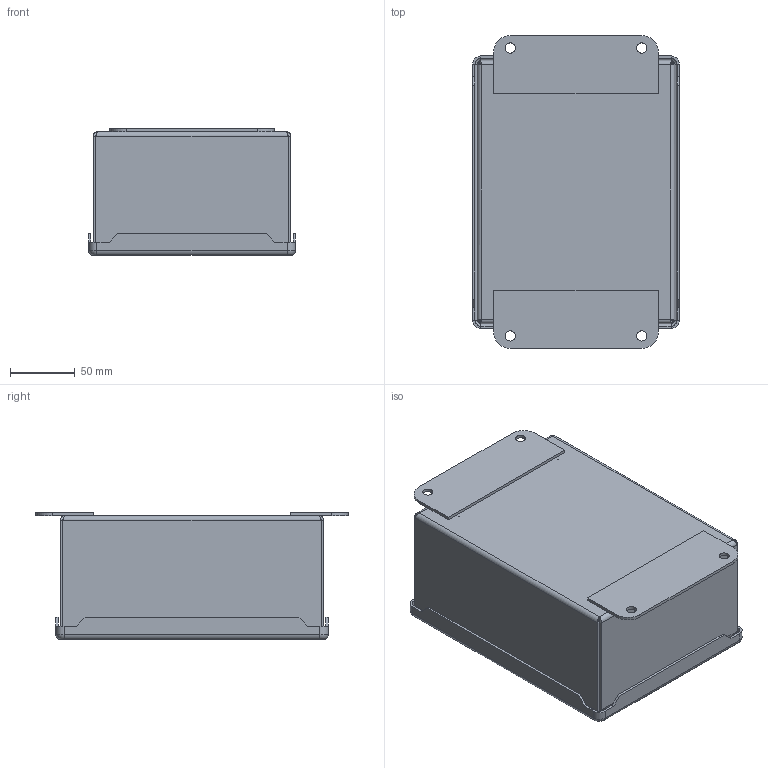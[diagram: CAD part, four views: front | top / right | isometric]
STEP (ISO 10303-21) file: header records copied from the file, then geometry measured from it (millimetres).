
FILE_DESCRIPTION (( 'STEP AP203' ), '1' );
FILE_NAME ('a806sc.STEP', '2011-02-17T15:11:01', ( 'Hoffman User' ), ( 'Hoffman Enclosures' ), 'SwSTEP 2.0', 'SolidWorks 2009', '' );
FILE_SCHEMA (( 'CONFIG_CONTROL_DESIGN' ));
Length unit declared in the file: inch
Products named in the file (9): 54106001; 89061412; 58346030; a806sc; 89061804; 54320006; 54208002_54208002; 58110009; 99404181
Assembly tree (15 placements, depth 3):
  a806sc
    89061412
      99404181
      58346030
    89061804
      54106001  x4
      54208002_54208002  x2
      58110009  x4
      54320006
Bounding box: 159.61 x 241.3 x 97.92 mm (x, y, z)
Volume: 282762.1 mm3; surface area: 310870.4 mm2
Topology: 13 solids, 13 shells, 933 faces, 2342 edges, 1502 vertices
Faces by surface type: plane 407, bspline 320, cylinder 120, torus 34, cone 28, sphere 24
Entity records: 27672 total; most frequent: CARTESIAN_POINT 14596, ORIENTED_EDGE 2706, DIRECTION 1983, EDGE_CURVE 1353, VERTEX_POINT 856, VECTOR 833, LINE 833, EDGE_LOOP 591
